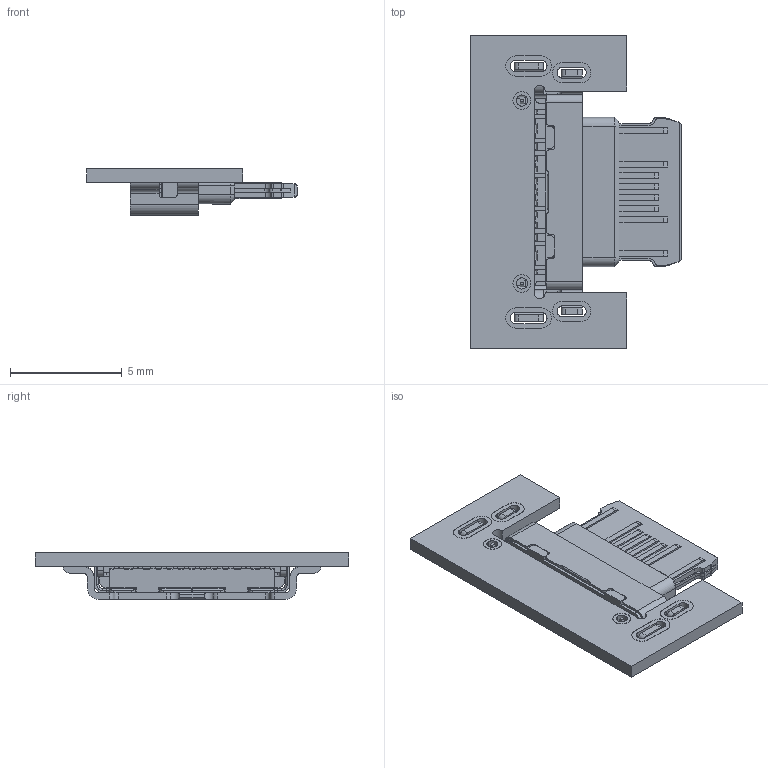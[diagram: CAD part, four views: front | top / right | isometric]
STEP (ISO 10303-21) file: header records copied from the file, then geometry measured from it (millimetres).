
FILE_DESCRIPTION (( 'STEP AP214' ), '1' );
FILE_NAME ('U5407-16PN0.6CW7.5L 16P 沉板0.6mm 四脚插板SMT 舌头外露4.45mm 7.5L.STEP', '2026-06-12T03:54:13', ( '' ), ( '' ), 'SwSTEP 2.0', 'SolidWorks 2024', '' );
FILE_SCHEMA (( 'AUTOMOTIVE_DESIGN' ));
Length unit declared in the file: millimetre
Products named in the file (5): U5407-16PN0.6CW7.5L 16P 沉板0.6mm 四脚插板SMT 舌头外露4.45mm 7.5L(2); A141-5161037-011_20250923_1_1_2; U5407-16PN0.6CW7.5L 16P 沉板0.6mm 四脚插板SMT 舌头外露4.45mm 7.5L; A141-5161037-011_20250923_3_ASM; A141-5161037-011_20250923_2_1
Assembly tree (4 placements, depth 4):
  U5407-16PN0.6CW7.5L 16P 沉板0.6mm 四脚插板SMT 舌头外露4.45mm 7.5L
    U5407-16PN0.6CW7.5L 16P 沉板0.6mm 四脚插板SMT 舌头外露4.45mm 7.5L(2)
      A141-5161037-011_20250923_3_ASM
        A141-5161037-011_20250923_1_1_2
        A141-5161037-011_20250923_2_1
Bounding box: 9.45 x 14.05 x 2.1 mm (x, y, z)
Volume: 96.6 mm3; surface area: 431.7 mm2
Topology: 2 solids, 2 shells, 1016 faces, 2790 edges, 1827 vertices
Faces by surface type: plane 713, cylinder 229, bspline 49, cone 25
Entity records: 34650 total; most frequent: CARTESIAN_POINT 8723, ORIENTED_EDGE 5580, DIRECTION 5025, EDGE_CURVE 2790, VECTOR 2169, LINE 2169, VERTEX_POINT 1827, AXIS2_PLACEMENT_3D 1428
